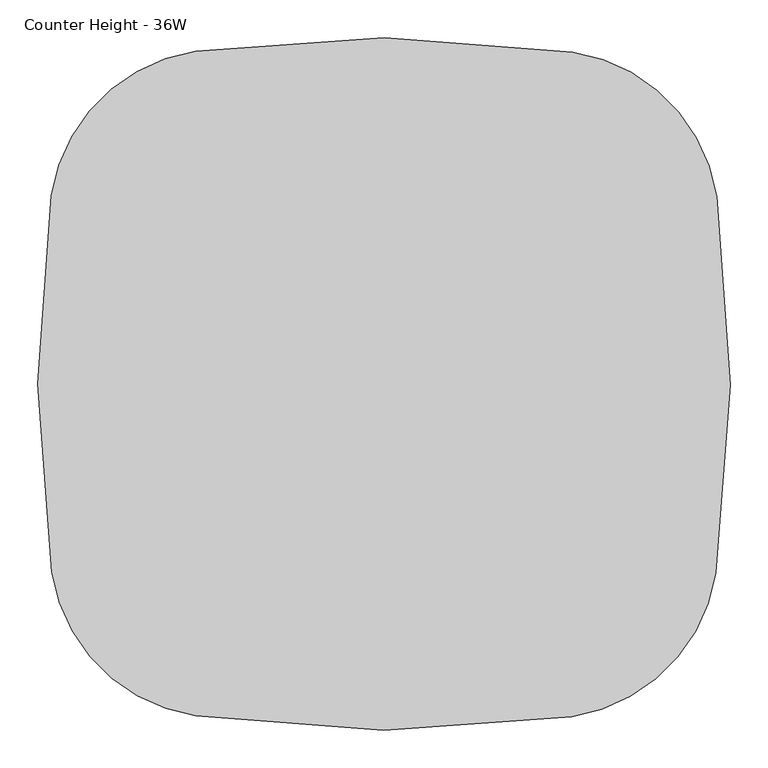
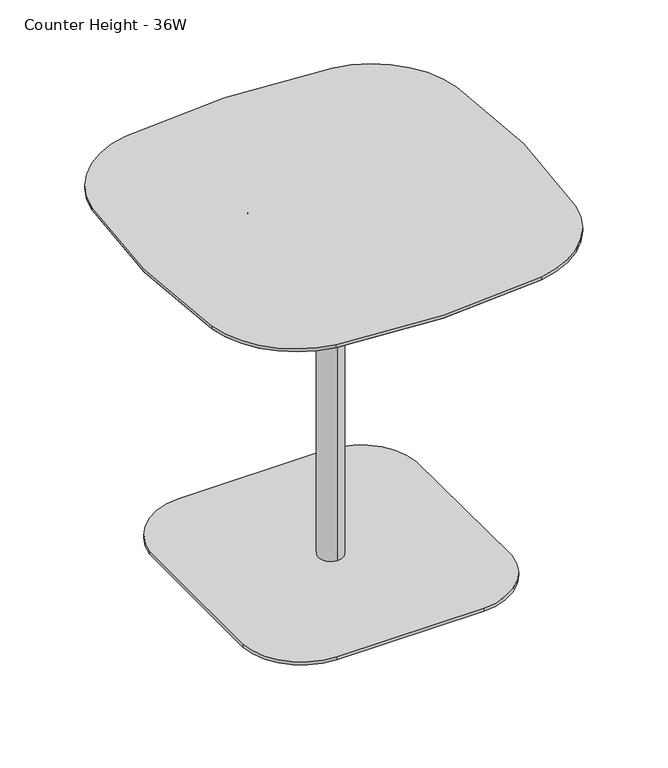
"""IFC4 building model written with IfcOpenShell, lengths in millimetres: furniture geometry, Steelcase Coalesse - Enea Lottus - Table - Cafe : Counter Height - 36W."""

import ifcopenshell
import ifcopenshell.guid

model = None  # the IFC model being written
_history = None  # IfcOwnerHistory: only IFC2X3 demands one
_inside = {}  # id of a spatial element -> (the spatial element, [elements in it])
_under = {}  # id of a project, library or spatial element -> (it, [spatial elements below it])
_declared = {}  # id of a project -> (the project, [libraries it declares])
_typed = {}  # id of a type object -> (the type object, [elements of that type])
_made_of = {}  # id of a material, layer set ... -> (it, [elements and type objects made of it])


def new_model(schema):
    """Start an empty IFC model of exactly this schema.

    Asked for "IFC4X3", IfcOpenShell would pick the latest addendum, in which some entities
    have other attributes; the version numbers below select the first issue.
    IFC2X3 requires an IfcOwnerHistory on every rooted entity: one is made here for all.
    """
    global model, _history
    if schema == "IFC4X3":
        model = ifcopenshell.file(schema_version=(4, 3, 0, 0))
    else:
        model = ifcopenshell.file(schema=schema)
    _inside.clear()
    _under.clear()
    _declared.clear()
    _typed.clear()
    _made_of.clear()
    _history = None
    if model.schema == "IFC2X3":
        org = make("IfcOrganization", Name="unknown")
        user = make(
            "IfcPersonAndOrganization",
            ThePerson=make("IfcPerson", FamilyName="unknown"),
            TheOrganization=org,
        )
        app = make(
            "IfcApplication",
            ApplicationDeveloper=org,
            Version="unknown",
            ApplicationFullName="unknown",
            ApplicationIdentifier="unknown",
        )
        _history = make(
            "IfcOwnerHistory",
            OwningUser=user,
            OwningApplication=app,
            ChangeAction="ADDED",
            CreationDate=0,
        )
    return model


def make(cls, **values):
    """One entity of the class cls with the attributes given. An attribute that is None is left unset."""
    return model.create_entity(
        cls, **{name: value for name, value in values.items() if value is not None}
    )


def rooted(cls, **values):
    """An entity with a GlobalId (a new one), such as an element, a storey or a relation."""
    return make(cls, GlobalId=ifcopenshell.guid.new(), OwnerHistory=_history, **values)


def si_unit(unit_type, name, prefix=None):
    """IfcSIUnit, for example si_unit("LENGTHUNIT", "METRE", prefix="MILLI")."""
    return make("IfcSIUnit", UnitType=unit_type, Prefix=prefix, Name=name)


def assignment(units):
    """IfcUnitAssignment: the units of a project."""
    return None if units is None else make("IfcUnitAssignment", Units=units)


def point(xyz):
    """IfcCartesianPoint."""
    return None if xyz is None else make("IfcCartesianPoint", Coordinates=xyz)


def direction(xyz):
    """IfcDirection."""
    return None if xyz is None else make("IfcDirection", DirectionRatios=xyz)


def frame(location, z_axis=None, x_axis=None):
    """IfcAxis2Placement3D, a coordinate frame: its origin and axes. An axis left out is left unset."""
    return make(
        "IfcAxis2Placement3D",
        Location=point(location),
        Axis=direction(z_axis),
        RefDirection=direction(x_axis),
    )


def frame_2d(location, x_axis=None):
    """IfcAxis2Placement2D, a coordinate frame in the plane: its origin and x axis."""
    return make(
        "IfcAxis2Placement2D", Location=point(location), RefDirection=direction(x_axis)
    )


def origin():
    """The frame at (0, 0, 0) with its axes left unset."""
    return frame((0.0, 0.0, 0.0))


def origin_with_axes():
    """The frame at (0, 0, 0) with the z axis (0, 0, 1) and the x axis (1, 0, 0) written out."""
    return frame((0.0, 0.0, 0.0), z_axis=(0.0, 0.0, 1.0), x_axis=(1.0, 0.0, 0.0))


def place(relative_to, where):
    """IfcLocalPlacement: puts the frame where relative to a parent placement (None: the world)."""
    return make(
        "IfcLocalPlacement", PlacementRelTo=relative_to, RelativePlacement=where
    )


def context(
    kind, dimensions, precision=None, world=None, true_north=None, identifier=None
):
    """IfcGeometricRepresentationContext, for example the 3D "Model" context."""
    return make(
        "IfcGeometricRepresentationContext",
        ContextIdentifier=identifier,
        ContextType=kind,
        CoordinateSpaceDimension=dimensions,
        Precision=precision,
        WorldCoordinateSystem=world,
        TrueNorth=true_north,
    )


def project(units=None, contexts=None):
    """IfcProject with its units and contexts."""
    return rooted(
        "IfcProject",
        Name="project",
        RepresentationContexts=contexts,
        UnitsInContext=assignment(units),
    )


def spatial(cls, under=None, at=None, **own):
    """A site, building, storey or space (cls), placed at a placement, below another one or the project."""
    s = rooted(cls, ObjectPlacement=at, **own)
    if under is not None:
        _under.setdefault(under.id(), (under, []))[1].append(s)
    return s


def polyline(points):
    """IfcPolyline through the points."""
    return make("IfcPolyline", Points=[point(p) for p in points])


def circle_curve(where, radius):
    """IfcCircle in the frame where."""
    return make("IfcCircle", Position=where, Radius=radius)


def trimmed(basis, trim1, trim2, sense, master):
    """IfcTrimmedCurve: the piece of a basis curve between two trims."""
    return make(
        "IfcTrimmedCurve",
        BasisCurve=basis,
        Trim1=trim1,
        Trim2=trim2,
        SenseAgreement=sense,
        MasterRepresentation=master,
    )


def segment(curve, same_sense, transition):
    """IfcCompositeCurveSegment."""
    return make(
        "IfcCompositeCurveSegment",
        Transition=transition,
        SameSense=same_sense,
        ParentCurve=curve,
    )


def composite_curve(segments, self_intersect=None):
    """IfcCompositeCurve: segments joined end to end."""
    return make("IfcCompositeCurve", Segments=segments, SelfIntersect=self_intersect)


def outline(outer, holes=None, kind="AREA"):
    """IfcArbitraryClosedProfileDef: a profile drawn as a closed curve; with holes, ...WithVoids."""
    if holes is None:
        return make("IfcArbitraryClosedProfileDef", ProfileType=kind, OuterCurve=outer)
    return make(
        "IfcArbitraryProfileDefWithVoids",
        ProfileType=kind,
        OuterCurve=outer,
        InnerCurves=holes,
    )


def extrude(swept, where, along, depth):
    """IfcExtrudedAreaSolid: the profile swept, set in the frame where, extruded along a direction by depth."""
    return make(
        "IfcExtrudedAreaSolid",
        SweptArea=swept,
        Position=where,
        ExtrudedDirection=direction(along),
        Depth=depth,
    )


def shape(context_of_items, identifier, shape_type, items):
    """IfcShapeRepresentation: the items that make up one representation, for example the "Body"."""
    return make(
        "IfcShapeRepresentation",
        ContextOfItems=context_of_items,
        RepresentationIdentifier=identifier,
        RepresentationType=shape_type,
        Items=items,
    )


def source(mapping_origin, context_of_items, identifier, shape_type, items):
    """IfcRepresentationMap: a shape defined once, which mapped items show again and again."""
    return make(
        "IfcRepresentationMap",
        MappingOrigin=mapping_origin,
        MappedRepresentation=shape(context_of_items, identifier, shape_type, items),
    )


def transform(
    local_origin,
    x_axis=None,
    y_axis=None,
    z_axis=None,
    scale=None,
    scale2=None,
    scale3=None,
    uniform=True,
):
    """IfcCartesianTransformationOperator3D, or its non-uniform kind. x_axis, y_axis, z_axis: its Axis1, 2, 3."""
    if uniform:
        return make(
            "IfcCartesianTransformationOperator3D",
            Axis1=direction(x_axis),
            Axis2=direction(y_axis),
            LocalOrigin=point(local_origin),
            Scale=scale,
            Axis3=direction(z_axis),
        )
    return make(
        "IfcCartesianTransformationOperator3DnonUniform",
        Axis1=direction(x_axis),
        Axis2=direction(y_axis),
        LocalOrigin=point(local_origin),
        Scale=scale,
        Axis3=direction(z_axis),
        Scale2=scale2,
        Scale3=scale3,
    )


def mapped(mapping_source, mapping_target):
    """IfcMappedItem: shows the shape of a source again, moved by a transform."""
    return make(
        "IfcMappedItem", MappingSource=mapping_source, MappingTarget=mapping_target
    )


def made_of(thing, what):
    """Note that an element or type object is made of a material, layer set ...; save() writes the relation."""
    if what is not None:
        _made_of.setdefault(what.id(), (what, []))[1].append(thing)
    return thing


def element(
    cls,
    number,
    at=None,
    inside=None,
    cuts=None,
    type_object=None,
    material=None,
    context=None,
    identifier="Body",
    shape_type=None,
    held_by="IfcProductDefinitionShape",
    body=None,
    shapes=None,
    **own,
):
    """One element of the class cls, such as IfcWall. Its Tag is "e" and its number.

    at: its placement. inside: the storey or other place that contains it. cuts: it is an
    opening in that element (IfcRelVoidsElement). A single representation is given by context,
    identifier, shape_type and body (its items); several are given by shapes. held_by: the class
    of the entity that holds the representations. save() writes the other relations.
    """
    e = rooted(cls, Tag="e%d" % number, ObjectPlacement=at, **own)
    if body is not None:
        shapes = [shape(context, identifier, shape_type, body)]
    if shapes is not None:
        e.Representation = make(held_by, Representations=shapes)
    if inside is not None:
        _inside.setdefault(inside.id(), (inside, []))[1].append(e)
    if cuts is not None:
        rooted(
            "IfcRelVoidsElement", RelatingBuildingElement=cuts, RelatedOpeningElement=e
        )
    if type_object is not None:
        _typed.setdefault(type_object.id(), (type_object, []))[1].append(e)
    return made_of(e, material)


def aggregate(whole, parts):
    """IfcRelAggregates: a whole, such as a stair, and the parts it consists of."""
    return rooted("IfcRelAggregates", RelatingObject=whole, RelatedObjects=parts)


def save(model, path):
    """Write the relations noted so far, then the file.

    IfcRelAggregates (storeys below a building ...), IfcRelContainedInSpatialStructure (elements
    in a storey), IfcRelDefinesByType, IfcRelAssociatesMaterial and IfcRelDeclares: one each for
    every whole, place, type object, material and project.
    """
    for whole, parts in _under.values():
        aggregate(whole, parts)
    for where, things in _inside.values():
        rooted(
            "IfcRelContainedInSpatialStructure",
            RelatedElements=things,
            RelatingStructure=where,
        )
    for kind, things in _typed.values():
        rooted("IfcRelDefinesByType", RelatedObjects=things, RelatingType=kind)
    for what, things in _made_of.values():
        rooted("IfcRelAssociatesMaterial", RelatedObjects=things, RelatingMaterial=what)
    for by, libraries in _declared.values():
        rooted("IfcRelDeclares", RelatingContext=by, RelatedDefinitions=libraries)
    model.write(path)


def plane_surface(at):
    """IfcPlane: the flat surface through the origin of the frame at, square to its z axis."""
    return make("IfcPlane", Position=at)


def cylinder_surface(at, radius):
    """IfcCylindricalSurface: all points at the distance radius from the z axis of the frame at."""
    return make("IfcCylindricalSurface", Position=at, Radius=radius)


def revolved_surface(curve, axis_point, axis_direction):
    """IfcSurfaceOfRevolution: the curve turned about the line through axis_point along axis_direction."""
    return make(
        "IfcSurfaceOfRevolution",
        SweptCurve=make("IfcArbitraryOpenProfileDef", ProfileType="CURVE", Curve=curve),
        AxisPosition=make("IfcAxis1Placement", Location=point(axis_point), Axis=direction(axis_direction)),
    )


def advanced_brep(points, edges, surfaces, faces):
    """IfcAdvancedBrep: a solid bounded by faces that lie on surfaces and meet in shared edges.

    An edge is (start, end): straight between two places in points (the first is 0);
    or (start, end, curve); or (start, end, curve, False) where it runs against its curve.
    A face is (place in surfaces, loops), or (place, loops, False) where it looks against
    its surface's normal. A loop lists edges by number (the first is 1), with a minus sign
    where the edge is run from its end to its start. The first loop is the outer one.
    """
    corners = [point(p) for p in points]
    vertices = [make("IfcVertexPoint", VertexGeometry=c) for c in corners]
    made = []
    for start, end, *more in edges:
        made.append(
            make(
                "IfcEdgeCurve",
                EdgeStart=vertices[start],
                EdgeEnd=vertices[end],
                EdgeGeometry=more[0] if more else make("IfcPolyline", Points=[corners[start], corners[end]]),
                SameSense=more[1] if len(more) > 1 else True,
            )
        )
    hull = []
    for where, loops, *sense in faces:
        bounds = []
        for j, loop in enumerate(loops):
            ring = [make("IfcOrientedEdge", EdgeElement=made[abs(k) - 1], Orientation=k > 0) for k in loop]
            bounds.append(
                make(
                    "IfcFaceOuterBound" if j == 0 else "IfcFaceBound",
                    Bound=make("IfcEdgeLoop", EdgeList=ring),
                    Orientation=True,
                )
            )
        hull.append(make("IfcAdvancedFace", Bounds=bounds, FaceSurface=surfaces[where], SameSense=sense[0] if sense else True))
    return make("IfcAdvancedBrep", Outer=make("IfcClosedShell", CfsFaces=hull))


def counter_height_36w_5a20dae7(model_context):
    return source(origin(), model_context, "Body", "SolidModel", [
        advanced_brep(
        [(457.2, -487.0613798, 878.0223999), (457.2, -427.3386202, 878.0223999), (457.2, -280.7080839, 898.7439789), (457.2, -633.6919161, 898.7439789), (457.2, -457.2, 878.0223999), (457.2, -633.6919161, 901.6282142), (457.2, -280.7080839, 901.6282142), (457.2, -457.2, 901.6282142)],
        [
            (0, 1, circle_curve(frame((457.2, -457.2, 878.0223999), z_axis=(0.0, 0.0, 1.0), x_axis=(0.0, 1.0, 0.0)), 29.8613798)),
            (1, 2),
            (2, 3, circle_curve(frame((457.2, -457.2, 898.7439789), z_axis=(0.0, 0.0, -1.0), x_axis=(0.0, 1.0, 0.0)), 176.4919161)),
            (3, 0),
            (1, 0, circle_curve(frame((457.2, -457.2, 878.0223999), z_axis=(0.0, 0.0, 1.0), x_axis=(0.0, 1.0, 0.0)), 29.8613798)),
            (3, 2, circle_curve(frame((457.2, -457.2, 898.7439789), z_axis=(0.0, 0.0, -1.0), x_axis=(0.0, 1.0, 0.0)), 176.4919161)),
            (4, 1),
            (0, 4),
            (5, 6, circle_curve(frame((457.2, -457.2, 901.6282142), z_axis=(0.0, 0.0, 1.0), x_axis=(0.0, 1.0, 0.0)), 176.4919161)),
            (6, 7),
            (7, 5),
            (6, 5, circle_curve(frame((457.2, -457.2, 901.6282142), z_axis=(0.0, 0.0, 1.0), x_axis=(0.0, 1.0, 0.0)), 176.4919161)),
            (2, 6),
            (5, 3),
        ],
        [
            revolved_surface(polyline([(457.2, -280.7080839, 898.7439789), (457.2, -427.3386202, 878.0223999)]), (457.2, -457.2, 889.825307), (0.0, 0.0, -1.0)),
            plane_surface(frame((457.2, -457.2, 878.0223999), z_axis=(0.0, 0.0, -1.0), x_axis=(0.0, 1.0, 0.0))),
            plane_surface(frame((457.2, -457.2, 901.6282142), z_axis=(0.0, 0.0, 1.0), x_axis=(0.0, 1.0, 0.0))),
            cylinder_surface(frame((457.2, -457.2, 889.825307), z_axis=(0.0, 0.0, -1.0), x_axis=(0.0, 1.0, 0.0)), 176.4919161),
        ],
        [
            (0, [[1, 2, 3, 4]]),
            (0, [[5, -4, 6, -2]]),
            (1, [[7, -1, 8]]),
            (1, [[-8, -5, -7]]),
            (2, [[9, 10, 11]]),
            (2, [[12, -11, -10]]),
            (3, [[-3, 13, -9, 14]]),
            (3, [[-6, -14, -12, -13]]),
        ],
    ),
        extrude(outline(composite_curve([segment(trimmed(circle_curve(frame_2d((464.9352073, 751.4950935)), 1674.4972799), [point((712.5498092, -904.5931134))], [point((211.7178786, -903.7457122))], False, "CARTESIAN"), True, "CONTINUOUS"), segment(trimmed(circle_curve(frame_2d((246.2867501, -677.7745788)), 228.6), [point((211.7178786, -903.7457122))], [point((20.3156167, -712.3434503))], False, "CARTESIAN"), True, "CONTINUOUS"), segment(trimmed(circle_curve(frame_2d((1675.5564224, -459.1261216)), 1674.4972799), [point((20.3156167, -712.3434503))], [point((19.5955214, -210.6615676))], False, "CARTESIAN"), True, "CONTINUOUS"), segment(trimmed(circle_curve(frame_2d((245.6649612, -244.5815971)), 228.6), [point((19.5955214, -210.6615676))], [point((211.7449317, -18.5121573))], False, "CARTESIAN"), True, "CONTINUOUS"), segment(trimmed(circle_curve(frame_2d((460.2094857, -1674.4730583)), 1674.4972799), [point((211.7449317, -18.5121573))], [point((714.2742157, -19.3621094))], False, "CARTESIAN"), True, "CONTINUOUS"), segment(trimmed(circle_curve(frame_2d((679.5896581, -245.3155149)), 228.6), [point((714.2742157, -19.3621094))], [point((905.6764776, -211.5115197))], False, "CARTESIAN"), True, "CONTINUOUS"), segment(trimmed(circle_curve(frame_2d((-750.4117294, -459.1261216)), 1674.4972799), [point((905.6764776, -211.5115197))], [point((904.6992195, -713.1908516))], False, "CARTESIAN"), True, "CONTINUOUS"), segment(trimmed(circle_curve(frame_2d((678.745814, -678.506294)), 228.6), [point((904.6992195, -713.1908516))], [point((712.5498092, -904.5931134))], False, "CARTESIAN"), True, "CONTINUOUS")], self_intersect=False)), frame((0.0, 0.0, 906.847009), z_axis=(0.0, 0.0, 1.0), x_axis=(1.0, 0.0, 0.0)), (0.0, 0.0, 1.0), 7.552991),
        advanced_brep(
        [(712.3472958, -31.9150763, 901.6282142), (893.1160987, -213.3895194, 901.6282142), (892.1462526, -711.2639317, 901.6282142), (710.6718095, -892.0327346, 901.6282142), (213.6383714, -891.1917603, 901.6282142), (32.8695686, -710.4229574, 901.6282142), (32.1549347, -212.5460137, 901.6282142), (213.6293778, -31.0715706, 901.6282142), (714.2742157, -19.3621094, 906.847009), (211.7449317, -18.5121573, 906.847009), (19.5955214, -210.6615676, 906.847009), (20.3156167, -712.3434503, 906.847009), (211.7178786, -903.7457122, 906.847009), (712.5498092, -904.5931134, 906.847009), (904.6992195, -713.1908516, 906.847009), (905.6764776, -211.5115197, 906.847009)],
        [
            (0, 1, circle_curve(frame((679.5896581, -245.3155149, 901.6282142), z_axis=(0.0, 0.0, -1.0), x_axis=(0.1517259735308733, 0.9884225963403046, 0.0)), 215.9)),
            (1, 2, circle_curve(frame((-750.4117294, -459.1261216, 901.6282142), z_axis=(0.0, 0.0, -1.0), x_axis=(0.9890062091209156, 0.14787399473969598, 0.0)), 1661.7972799)),
            (2, 3, circle_curve(frame((678.745814, -678.506294, 901.6282142), z_axis=(0.0, 0.0, -1.0), x_axis=(0.9884225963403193, -0.1517259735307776, 0.0)), 215.9)),
            (3, 4, circle_curve(frame((464.9352073, 751.4950935, 901.6282142), z_axis=(0.0, 0.0, -1.0), x_axis=(0.14787399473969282, -0.9890062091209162, 0.0)), 1661.7972799)),
            (4, 5, circle_curve(frame((246.2867501, -677.7745788, 901.6282142), z_axis=(0.0, 0.0, -1.0), x_axis=(-0.15121991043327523, -0.9885001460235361, 0.0)), 215.9)),
            (5, 6, circle_curve(frame((1675.5564224, -459.1261216, 901.6282142), z_axis=(0.0, 0.0, -1.0), x_axis=(-0.988500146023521, -0.15121991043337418, 0.0)), 1661.7972799)),
            (6, 7, circle_curve(frame((245.6649612, -244.5815971, 901.6282142), z_axis=(0.0, 0.0, -1.0), x_axis=(-0.9889301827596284, 0.14838158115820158, 0.0)), 215.9)),
            (7, 0, circle_curve(frame((460.2094857, -1674.4730583, 901.6282142), z_axis=(0.0, 0.0, -1.0), x_axis=(-0.1483815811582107, 0.9889301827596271, 0.0)), 1661.7972799)),
            (8, 9, circle_curve(frame((460.2094857, -1674.4730583, 906.847009), z_axis=(0.0, 0.0, 1.0), x_axis=(-0.1483815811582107, 0.9889301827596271, 0.0)), 1674.4972799)),
            (9, 10, circle_curve(frame((245.6649612, -244.5815971, 906.847009), z_axis=(0.0, 0.0, 1.0), x_axis=(-0.9889301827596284, 0.14838158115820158, 0.0)), 228.6)),
            (10, 11, circle_curve(frame((1675.5564224, -459.1261216, 906.847009), z_axis=(0.0, 0.0, 1.0), x_axis=(-0.988500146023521, -0.15121991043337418, 0.0)), 1674.4972799)),
            (11, 12, circle_curve(frame((246.2867501, -677.7745788, 906.847009), z_axis=(0.0, 0.0, 1.0), x_axis=(-0.15121991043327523, -0.9885001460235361, 0.0)), 228.6)),
            (12, 13, circle_curve(frame((464.9352073, 751.4950935, 906.847009), z_axis=(0.0, 0.0, 1.0), x_axis=(0.14787399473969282, -0.9890062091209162, 0.0)), 1674.4972799)),
            (13, 14, circle_curve(frame((678.745814, -678.506294, 906.847009), z_axis=(0.0, 0.0, 1.0), x_axis=(0.9884225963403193, -0.1517259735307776, 0.0)), 228.6)),
            (14, 15, circle_curve(frame((-750.4117294, -459.1261216, 906.847009), z_axis=(0.0, 0.0, 1.0), x_axis=(0.9890062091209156, 0.14787399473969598, 0.0)), 1674.4972799)),
            (15, 8, circle_curve(frame((679.5896581, -245.3155149, 906.847009), z_axis=(0.0, 0.0, 1.0), x_axis=(0.1517259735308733, 0.9884225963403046, 0.0)), 228.6)),
            (15, 1),
            (0, 8),
            (14, 2),
            (13, 3),
            (12, 4),
            (11, 5),
            (10, 6),
            (9, 7),
        ],
        [
            plane_surface(frame((462.5717136, -461.7291955, 901.6282142), z_axis=(0.0, 0.0, -1.0), x_axis=(-0.9884225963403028, 0.1517259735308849, 0.0))),
            plane_surface(frame((462.5717088, -461.7400602, 906.847009), z_axis=(0.0, 0.0, 1.0), x_axis=(-0.9884225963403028, 0.1517259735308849, 0.0))),
            revolved_surface(polyline([(712.3472958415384, -31.91507631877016, 901.6282142), (714.2742157, -19.36210940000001, 906.847009)]), (679.5896581, -245.3155149, 812.9087022), (0.0, 0.0, 1.0)),
            revolved_surface(polyline([(893.1160987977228, -213.38951942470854, 901.6282142), (905.6764776, -211.5115197, 906.8470090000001)]), (-750.4117294, -459.1261216, 218.7479748), (0.0, 0.0, 1.0)),
            revolved_surface(polyline([(892.1462525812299, -711.2639317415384, 901.6282142), (904.6992195, -713.1908516, 906.847009)]), (678.745814, -678.506294, 812.9087022), (0.0, 0.0, 1.0)),
            revolved_surface(polyline([(710.6718094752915, -892.0327345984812, 901.6282142), (712.5498092, -904.5931133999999, 906.8470090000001)]), (464.9352073, 751.4950935, 218.7479748), (0.0, 0.0, 1.0)),
            revolved_surface(polyline([(213.63837145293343, -891.1917603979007, 901.6282142), (211.7178786, -903.7457122, 906.847009)]), (246.2867501, -677.7745788, 812.9087022), (0.0, 0.0, 1.0)),
            revolved_surface(polyline([(32.869568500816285, -710.4229574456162, 901.6282142), (20.315616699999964, -712.3434503, 906.8470090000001)]), (1675.5564224, -459.1261216, 218.7479748), (0.0, 0.0, 1.0)),
            revolved_surface(polyline([(32.1549346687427, -212.54601367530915, 901.6282142), (19.595521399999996, -210.6615676, 906.847009)]), (245.6649612, -244.5815971, 812.9087022), (0.0, 0.0, 1.0)),
            revolved_surface(polyline([(213.62937777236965, -31.071570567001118, 901.6282142), (211.7449317, -18.5121572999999, 906.8470090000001)]), (460.2094857, -1674.4730583, 218.7479748), (0.0, 0.0, 1.0)),
        ],
        [
            (0, [[1, 2, 3, 4, 5, 6, 7, 8]]),
            (1, [[9, 10, 11, 12, 13, 14, 15, 16]]),
            (2, [[-16, 17, -1, 18]]),
            (3, [[-15, 19, -2, -17]]),
            (4, [[-14, 20, -3, -19]]),
            (5, [[-13, 21, -4, -20]]),
            (6, [[-12, 22, -5, -21]]),
            (7, [[-11, 23, -6, -22]]),
            (8, [[-10, 24, -7, -23]]),
            (9, [[-9, -18, -8, -24]]),
        ],
    ),
        extrude(outline(composite_curve([segment(trimmed(circle_curve(frame_2d((214.1573668, -214.1557788)), 14.5931535), [point((228.7505203, -214.1557788))], [point((199.5642134, -214.1557788))], False, "CARTESIAN"), True, "CONTINUOUS"), segment(trimmed(circle_curve(frame_2d((214.1573668, -214.1557788)), 14.5931535), [point((199.5642134, -214.1557788))], [point((228.7505203, -214.1557788))], False, "CARTESIAN"), True, "CONTINUOUS")], self_intersect=False)), origin_with_axes(), (0.0, 0.0, 1.0), 12.0681503),
        extrude(outline(composite_curve([segment(trimmed(circle_curve(frame_2d((700.2426332, -214.1557788)), 14.5931535), [point((714.8357866, -214.1557788))], [point((685.6494797, -214.1557788))], False, "CARTESIAN"), True, "CONTINUOUS"), segment(trimmed(circle_curve(frame_2d((700.2426332, -214.1557788)), 14.5931535), [point((685.6494797, -214.1557788))], [point((714.8357866, -214.1557788))], False, "CARTESIAN"), True, "CONTINUOUS")], self_intersect=False)), origin_with_axes(), (0.0, 0.0, 1.0), 12.0681503),
        extrude(outline(composite_curve([segment(trimmed(circle_curve(frame_2d((214.1573668, -700.2442212)), 14.5931535), [point((228.7505203, -700.2442212))], [point((199.5642134, -700.2442212))], False, "CARTESIAN"), True, "CONTINUOUS"), segment(trimmed(circle_curve(frame_2d((214.1573668, -700.2442212)), 14.5931535), [point((199.5642134, -700.2442212))], [point((228.7505203, -700.2442212))], False, "CARTESIAN"), True, "CONTINUOUS")], self_intersect=False)), origin_with_axes(), (0.0, 0.0, 1.0), 12.0681503),
        extrude(outline(composite_curve([segment(trimmed(circle_curve(frame_2d((700.2426332, -700.2442212)), 14.5931535), [point((714.8357866, -700.2442212))], [point((685.6494797, -700.2442212))], False, "CARTESIAN"), True, "CONTINUOUS"), segment(trimmed(circle_curve(frame_2d((700.2426332, -700.2442212)), 14.5931535), [point((685.6494797, -700.2442212))], [point((714.8357866, -700.2442212))], False, "CARTESIAN"), True, "CONTINUOUS")], self_intersect=False)), origin_with_axes(), (0.0, 0.0, 1.0), 12.0681503),
        extrude(outline(composite_curve([segment(trimmed(circle_curve(frame_2d((636.9607189, -268.1533124)), 146.05), [point((639.7264288, -122.1295015))], [point((782.2001859, -252.7877752))], False, "CARTESIAN"), True, "CONTINUOUS"), segment(trimmed(circle_curve(frame_2d((-1245.3172342, -467.2879728)), 2038.8323187), [point((782.2001859, -252.7877752))], [point((784.9554242, -653.9163632))], False, "CARTESIAN"), True, "CONTINUOUS"), segment(trimmed(circle_curve(frame_2d((633.1952474, -639.9661396)), 152.4), [point((784.9554242, -653.9163632))], [point((636.0203938, -792.3399515))], False, "CARTESIAN"), True, "CONTINUOUS"), segment(trimmed(circle_curve(frame_2d((463.8481103, 8493.7442651)), 9287.6801932), [point((636.0203938, -792.3399515))], [point((278.1338209, -792.0789927))], False, "CARTESIAN"), True, "CONTINUOUS"), segment(trimmed(circle_curve(frame_2d((281.1811758, -639.7094628)), 152.4), [point((278.1338209, -792.0789927))], [point((129.4190943, -653.6389502))], False, "CARTESIAN"), True, "CONTINUOUS"), segment(trimmed(circle_curve(frame_2d((2159.7172342, -467.2879728)), 2038.8323187), [point((129.4190943, -653.6389502))], [point((131.543094, -259.0888363))], False, "CARTESIAN"), True, "CONTINUOUS"), segment(trimmed(circle_curve(frame_2d((283.1464093, -274.6514445)), 152.4), [point((131.543094, -259.0888363))], [point((280.1318396, -122.2812624))], False, "CARTESIAN"), True, "CONTINUOUS"), segment(trimmed(circle_curve(frame_2d((463.8481103, -9408.1442651)), 9287.6801932), [point((280.1318396, -122.2812624))], [point((639.7264288, -122.1295015))], False, "CARTESIAN"), True, "CONTINUOUS")], self_intersect=False)), frame((0.0, 0.0, 12.0681503), z_axis=(0.0, 0.0, 1.0), x_axis=(1.0, 0.0, 0.0)), (0.0, 0.0, 1.0), 7.874),
        extrude(outline(composite_curve([segment(trimmed(circle_curve(frame_2d((457.2, -457.2)), 29.8613798), [point((457.2, -487.0613798))], [point((457.2, -427.3386202))], False, "CARTESIAN"), True, "CONTINUOUS"), segment(trimmed(circle_curve(frame_2d((457.2, -457.2)), 29.8613798), [point((457.2, -427.3386202))], [point((457.2, -487.0613798))], False, "CARTESIAN"), True, "CONTINUOUS")], self_intersect=False)), frame((0.0, 0.0, 19.9421503), z_axis=(0.0, 0.0, 1.0), x_axis=(1.0, 0.0, 0.0)), (0.0, 0.0, 1.0), 858.0802496),
    ])


if __name__ == "__main__":
    model = new_model("IFC4")
    model_context = context("Model", 3, world=origin())
    ifc_project = project(units=[si_unit("LENGTHUNIT", "METRE", prefix="MILLI")], contexts=[model_context])
    site = spatial("IfcSite", under=ifc_project)
    building = spatial("IfcBuilding", under=site)
    placement = place(None, origin())
    counter_height_36w_shape = counter_height_36w_5a20dae7(model_context)
    element("IfcFurniture", 1, ObjectType="Steelcase Coalesse - Enea Lottus - Table - Cafe : Counter Height - 36W", at=placement, inside=building, context=model_context, shape_type="MappedRepresentation", body=[
        mapped(counter_height_36w_shape, transform((0.0, 0.0, 0.0), x_axis=(1.0, 0.0, 0.0), y_axis=(0.0, 1.0, 0.0), z_axis=(0.0, 0.0, 1.0))),
    ])
    save(model, "model.ifc")
